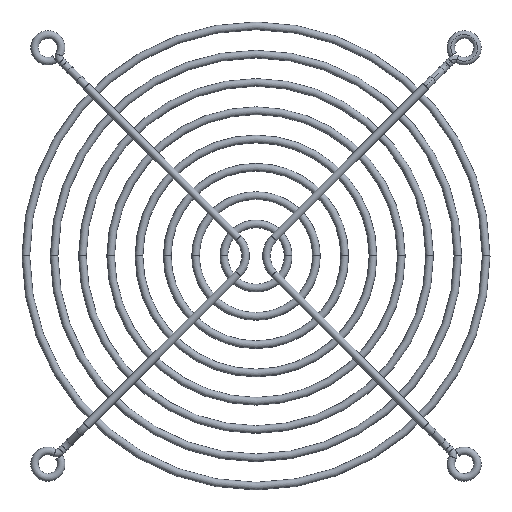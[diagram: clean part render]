
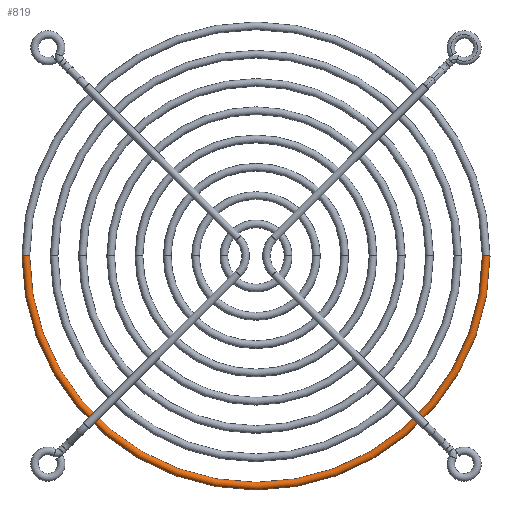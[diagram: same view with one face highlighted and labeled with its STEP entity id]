
A CAD part, top view. The second image highlights one B-rep face of the part: STEP entity #819.
In plain terms, the highlighted toroidal (fillet/blend) face has major radius 57.861 mm and minor radius 0.965 mm.
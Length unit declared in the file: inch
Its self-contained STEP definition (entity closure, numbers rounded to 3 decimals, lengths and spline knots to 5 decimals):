
#756=CARTESIAN_POINT('',(0.,0.,0.));
#757=DIRECTION('',(0.,0.,1.));
#758=DIRECTION('',(-1.,0.,0.));
#759=AXIS2_PLACEMENT_3D('',#756,#757,#758);
#761=CARTESIAN_POINT('',(2.278,0.,0.));
#762=DIRECTION('',(0.,1.,0.));
#763=DIRECTION('',(-1.,0.,0.));
#764=AXIS2_PLACEMENT_3D('',#761,#762,#763);
#771=CARTESIAN_POINT('',(-2.278,0.,0.));
#772=DIRECTION('',(0.,-1.,0.));
#773=DIRECTION('',(1.,0.,0.));
#774=AXIS2_PLACEMENT_3D('',#771,#772,#773);
#791=CARTESIAN_POINT('',(0.,0.,0.));
#792=DIRECTION('',(0.,0.,1.));
#793=DIRECTION('',(-1.,0.,0.));
#794=AXIS2_PLACEMENT_3D('',#791,#792,#793);
#796=CARTESIAN_POINT('',(-2.24,0.,0.));
#797=CARTESIAN_POINT('',(-2.316,0.,0.));
#798=VERTEX_POINT('',#796);
#799=VERTEX_POINT('',#797);
#800=CARTESIAN_POINT('',(2.24,0.,0.));
#801=CARTESIAN_POINT('',(2.316,0.,0.));
#802=VERTEX_POINT('',#800);
#803=VERTEX_POINT('',#801);
#804=CARTESIAN_POINT('',(0.,0.,0.));
#805=DIRECTION('',(0.,0.,1.));
#806=DIRECTION('',(1.,0.,0.));
#807=AXIS2_PLACEMENT_3D('',#804,#805,#806);
#808=TOROIDAL_SURFACE('',#807,2.278,0.038);
#810=ORIENTED_EDGE('',*,*,#809,.F.);
#812=ORIENTED_EDGE('',*,*,#811,.T.);
#814=ORIENTED_EDGE('',*,*,#813,.T.);
#816=ORIENTED_EDGE('',*,*,#815,.F.);
#817=EDGE_LOOP('',(#810,#812,#814,#816));
#818=FACE_OUTER_BOUND('',#817,.F.);
#760=CIRCLE('',#759,2.24);
#765=CIRCLE('',#764,0.038);
#775=CIRCLE('',#774,0.038);
#795=CIRCLE('',#794,2.316);
#809=EDGE_CURVE('',#798,#799,#775,.T.);
#811=EDGE_CURVE('',#798,#802,#760,.T.);
#813=EDGE_CURVE('',#802,#803,#765,.T.);
#815=EDGE_CURVE('',#799,#803,#795,.T.);
#819=ADVANCED_FACE('',(#818),#808,.T.);
